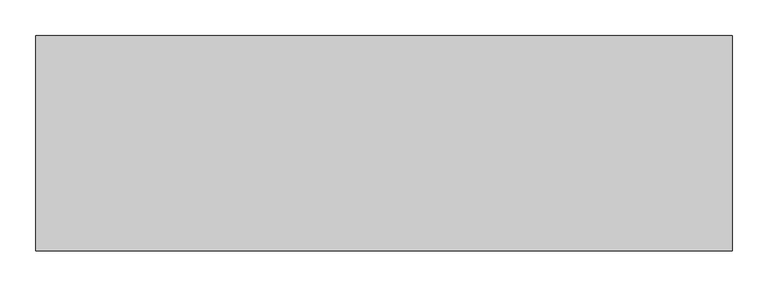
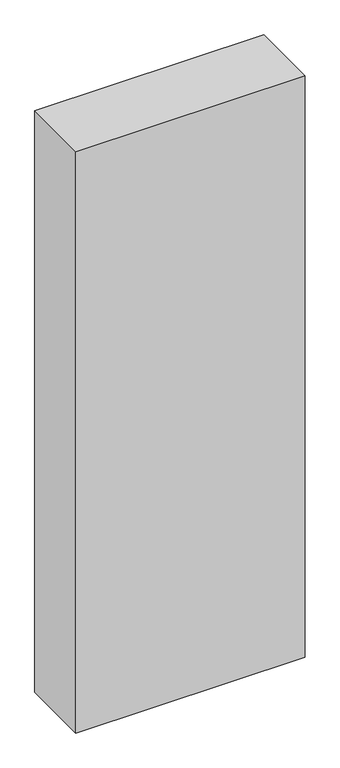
"""IFC4 building model written with IfcOpenShell, lengths in millimetres: furniture geometry, Fu_шкаф 1-с : Шкаф 1-створчатый."""

import ifcopenshell
import ifcopenshell.guid

model = None  # the IFC model being written
_history = None  # IfcOwnerHistory: only IFC2X3 demands one
_inside = {}  # id of a spatial element -> (the spatial element, [elements in it])
_under = {}  # id of a project, library or spatial element -> (it, [spatial elements below it])
_declared = {}  # id of a project -> (the project, [libraries it declares])
_typed = {}  # id of a type object -> (the type object, [elements of that type])
_made_of = {}  # id of a material, layer set ... -> (it, [elements and type objects made of it])


def new_model(schema):
    """Start an empty IFC model of exactly this schema.

    Asked for "IFC4X3", IfcOpenShell would pick the latest addendum, in which some entities
    have other attributes; the version numbers below select the first issue.
    IFC2X3 requires an IfcOwnerHistory on every rooted entity: one is made here for all.
    """
    global model, _history
    if schema == "IFC4X3":
        model = ifcopenshell.file(schema_version=(4, 3, 0, 0))
    else:
        model = ifcopenshell.file(schema=schema)
    _inside.clear()
    _under.clear()
    _declared.clear()
    _typed.clear()
    _made_of.clear()
    _history = None
    if model.schema == "IFC2X3":
        org = make("IfcOrganization", Name="unknown")
        user = make(
            "IfcPersonAndOrganization",
            ThePerson=make("IfcPerson", FamilyName="unknown"),
            TheOrganization=org,
        )
        app = make(
            "IfcApplication",
            ApplicationDeveloper=org,
            Version="unknown",
            ApplicationFullName="unknown",
            ApplicationIdentifier="unknown",
        )
        _history = make(
            "IfcOwnerHistory",
            OwningUser=user,
            OwningApplication=app,
            ChangeAction="ADDED",
            CreationDate=0,
        )
    return model


def make(cls, **values):
    """One entity of the class cls with the attributes given. An attribute that is None is left unset."""
    return model.create_entity(
        cls, **{name: value for name, value in values.items() if value is not None}
    )


def rooted(cls, **values):
    """An entity with a GlobalId (a new one), such as an element, a storey or a relation."""
    return make(cls, GlobalId=ifcopenshell.guid.new(), OwnerHistory=_history, **values)


def si_unit(unit_type, name, prefix=None):
    """IfcSIUnit, for example si_unit("LENGTHUNIT", "METRE", prefix="MILLI")."""
    return make("IfcSIUnit", UnitType=unit_type, Prefix=prefix, Name=name)


def assignment(units):
    """IfcUnitAssignment: the units of a project."""
    return None if units is None else make("IfcUnitAssignment", Units=units)


def point(xyz):
    """IfcCartesianPoint."""
    return None if xyz is None else make("IfcCartesianPoint", Coordinates=xyz)


def direction(xyz):
    """IfcDirection."""
    return None if xyz is None else make("IfcDirection", DirectionRatios=xyz)


def frame(location, z_axis=None, x_axis=None):
    """IfcAxis2Placement3D, a coordinate frame: its origin and axes. An axis left out is left unset."""
    return make(
        "IfcAxis2Placement3D",
        Location=point(location),
        Axis=direction(z_axis),
        RefDirection=direction(x_axis),
    )


def origin():
    """The frame at (0, 0, 0) with its axes left unset."""
    return frame((0.0, 0.0, 0.0))


def origin_with_axes():
    """The frame at (0, 0, 0) with the z axis (0, 0, 1) and the x axis (1, 0, 0) written out."""
    return frame((0.0, 0.0, 0.0), z_axis=(0.0, 0.0, 1.0), x_axis=(1.0, 0.0, 0.0))


def place(relative_to, where):
    """IfcLocalPlacement: puts the frame where relative to a parent placement (None: the world)."""
    return make(
        "IfcLocalPlacement", PlacementRelTo=relative_to, RelativePlacement=where
    )


def context(
    kind, dimensions, precision=None, world=None, true_north=None, identifier=None
):
    """IfcGeometricRepresentationContext, for example the 3D "Model" context."""
    return make(
        "IfcGeometricRepresentationContext",
        ContextIdentifier=identifier,
        ContextType=kind,
        CoordinateSpaceDimension=dimensions,
        Precision=precision,
        WorldCoordinateSystem=world,
        TrueNorth=true_north,
    )


def project(units=None, contexts=None):
    """IfcProject with its units and contexts."""
    return rooted(
        "IfcProject",
        Name="project",
        RepresentationContexts=contexts,
        UnitsInContext=assignment(units),
    )


def spatial(cls, under=None, at=None, **own):
    """A site, building, storey or space (cls), placed at a placement, below another one or the project."""
    s = rooted(cls, ObjectPlacement=at, **own)
    if under is not None:
        _under.setdefault(under.id(), (under, []))[1].append(s)
    return s


def polyline(points):
    """IfcPolyline through the points."""
    return make("IfcPolyline", Points=[point(p) for p in points])


def outline(outer, holes=None, kind="AREA"):
    """IfcArbitraryClosedProfileDef: a profile drawn as a closed curve; with holes, ...WithVoids."""
    if holes is None:
        return make("IfcArbitraryClosedProfileDef", ProfileType=kind, OuterCurve=outer)
    return make(
        "IfcArbitraryProfileDefWithVoids",
        ProfileType=kind,
        OuterCurve=outer,
        InnerCurves=holes,
    )


def extrude(swept, where, along, depth):
    """IfcExtrudedAreaSolid: the profile swept, set in the frame where, extruded along a direction by depth."""
    return make(
        "IfcExtrudedAreaSolid",
        SweptArea=swept,
        Position=where,
        ExtrudedDirection=direction(along),
        Depth=depth,
    )


def shape(context_of_items, identifier, shape_type, items):
    """IfcShapeRepresentation: the items that make up one representation, for example the "Body"."""
    return make(
        "IfcShapeRepresentation",
        ContextOfItems=context_of_items,
        RepresentationIdentifier=identifier,
        RepresentationType=shape_type,
        Items=items,
    )


def source(mapping_origin, context_of_items, identifier, shape_type, items):
    """IfcRepresentationMap: a shape defined once, which mapped items show again and again."""
    return make(
        "IfcRepresentationMap",
        MappingOrigin=mapping_origin,
        MappedRepresentation=shape(context_of_items, identifier, shape_type, items),
    )


def transform(
    local_origin,
    x_axis=None,
    y_axis=None,
    z_axis=None,
    scale=None,
    scale2=None,
    scale3=None,
    uniform=True,
):
    """IfcCartesianTransformationOperator3D, or its non-uniform kind. x_axis, y_axis, z_axis: its Axis1, 2, 3."""
    if uniform:
        return make(
            "IfcCartesianTransformationOperator3D",
            Axis1=direction(x_axis),
            Axis2=direction(y_axis),
            LocalOrigin=point(local_origin),
            Scale=scale,
            Axis3=direction(z_axis),
        )
    return make(
        "IfcCartesianTransformationOperator3DnonUniform",
        Axis1=direction(x_axis),
        Axis2=direction(y_axis),
        LocalOrigin=point(local_origin),
        Scale=scale,
        Axis3=direction(z_axis),
        Scale2=scale2,
        Scale3=scale3,
    )


def mapped(mapping_source, mapping_target):
    """IfcMappedItem: shows the shape of a source again, moved by a transform."""
    return make(
        "IfcMappedItem", MappingSource=mapping_source, MappingTarget=mapping_target
    )


def made_of(thing, what):
    """Note that an element or type object is made of a material, layer set ...; save() writes the relation."""
    if what is not None:
        _made_of.setdefault(what.id(), (what, []))[1].append(thing)
    return thing


def element(
    cls,
    number,
    at=None,
    inside=None,
    cuts=None,
    type_object=None,
    material=None,
    context=None,
    identifier="Body",
    shape_type=None,
    held_by="IfcProductDefinitionShape",
    body=None,
    shapes=None,
    **own,
):
    """One element of the class cls, such as IfcWall. Its Tag is "e" and its number.

    at: its placement. inside: the storey or other place that contains it. cuts: it is an
    opening in that element (IfcRelVoidsElement). A single representation is given by context,
    identifier, shape_type and body (its items); several are given by shapes. held_by: the class
    of the entity that holds the representations. save() writes the other relations.
    """
    e = rooted(cls, Tag="e%d" % number, ObjectPlacement=at, **own)
    if body is not None:
        shapes = [shape(context, identifier, shape_type, body)]
    if shapes is not None:
        e.Representation = make(held_by, Representations=shapes)
    if inside is not None:
        _inside.setdefault(inside.id(), (inside, []))[1].append(e)
    if cuts is not None:
        rooted(
            "IfcRelVoidsElement", RelatingBuildingElement=cuts, RelatedOpeningElement=e
        )
    if type_object is not None:
        _typed.setdefault(type_object.id(), (type_object, []))[1].append(e)
    return made_of(e, material)


def aggregate(whole, parts):
    """IfcRelAggregates: a whole, such as a stair, and the parts it consists of."""
    return rooted("IfcRelAggregates", RelatingObject=whole, RelatedObjects=parts)


def save(model, path):
    """Write the relations noted so far, then the file.

    IfcRelAggregates (storeys below a building ...), IfcRelContainedInSpatialStructure (elements
    in a storey), IfcRelDefinesByType, IfcRelAssociatesMaterial and IfcRelDeclares: one each for
    every whole, place, type object, material and project.
    """
    for whole, parts in _under.values():
        aggregate(whole, parts)
    for where, things in _inside.values():
        rooted(
            "IfcRelContainedInSpatialStructure",
            RelatedElements=things,
            RelatingStructure=where,
        )
    for kind, things in _typed.values():
        rooted("IfcRelDefinesByType", RelatedObjects=things, RelatingType=kind)
    for what, things in _made_of.values():
        rooted("IfcRelAssociatesMaterial", RelatedObjects=things, RelatingMaterial=what)
    for by, libraries in _declared.values():
        rooted("IfcRelDeclares", RelatingContext=by, RelatedDefinitions=libraries)
    model.write(path)


def furniture_6f0d27c5(model_context):
    return source(origin(), model_context, "Body", "SweptSolid", [
        extrude(outline(polyline([(970.0, 0.0), (0.0, 0.0), (0.0, 300.0), (970.0, 300.0), (970.0, 0.0)])), origin_with_axes(), (0.0, 0.0, 1.0), 2600.0),
    ])


if __name__ == "__main__":
    model = new_model("IFC4")
    model_context = context("Model", 3, world=origin())
    ifc_project = project(units=[si_unit("LENGTHUNIT", "METRE", prefix="MILLI")], contexts=[model_context])
    site = spatial("IfcSite", under=ifc_project)
    building = spatial("IfcBuilding", under=site)
    placement = place(None, origin())
    furniture_shape = furniture_6f0d27c5(model_context)
    element("IfcFurniture", 1, ObjectType="Fu_шкаф 1-с : Шкаф 1-створчатый", at=placement, inside=building, context=model_context, shape_type="MappedRepresentation", body=[
        mapped(furniture_shape, transform((0.0, 0.0, 0.0), x_axis=(1.0, 0.0, 0.0), y_axis=(0.0, 1.0, 0.0), z_axis=(0.0, 0.0, 1.0))),
    ])
    save(model, "model.ifc")
